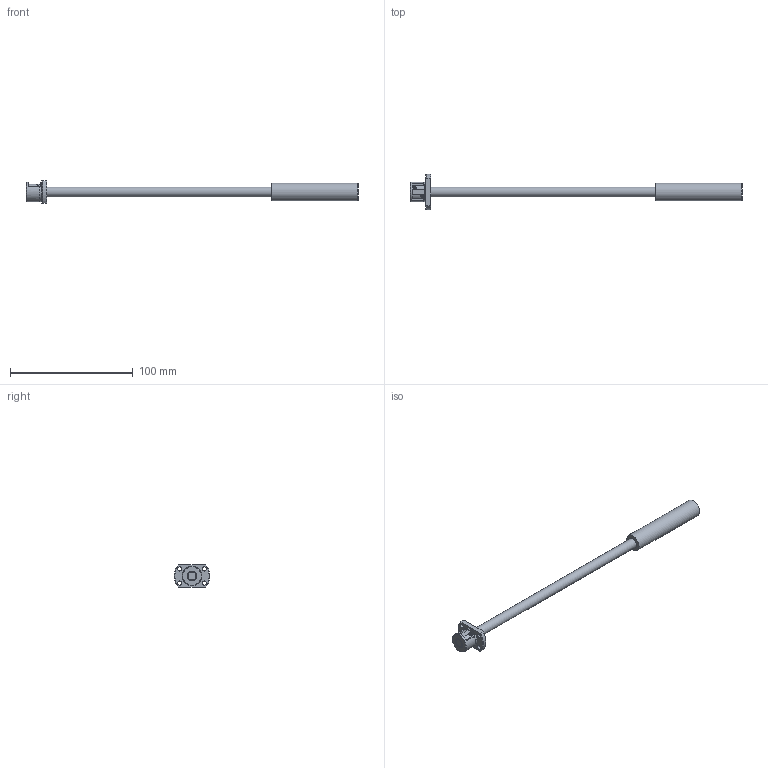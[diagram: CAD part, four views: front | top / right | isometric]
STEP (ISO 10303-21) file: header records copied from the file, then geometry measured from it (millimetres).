
FILE_DESCRIPTION( ( 'STEP AP203' ), '1' );
FILE_NAME( 'e:/temp/worker_105/temp/exporttempdir_6104_517_49EdW/format_0/SRT0801-196R270C7A0X(0None).stp', '2021-10-19T05:29:58', ( 'License CC BY-ND 4.0' ), ( 'CADENAS' ), ' ', 'PARTsolutions', ' ' );
FILE_SCHEMA( ( 'CONFIG_CONTROL_DESIGN' ) );
Length unit declared in the file: millimetre
Products named in the file (3): SRT0801-196R270C7A0X(0None); _SRT0801-196R270ACt7NoneShaft; _SRT0801Nut
Assembly tree (2 placements, depth 2):
  SRT0801-196R270C7A0X(0None)
    _SRT0801-196R270ACt7NoneShaft
    _SRT0801Nut
Bounding box: 270 x 29 x 18 mm (x, y, z)
Volume: 24461.2 mm3; surface area: 10837.8 mm2
Topology: 2 solids, 2 shells, 52 faces, 129 edges, 83 vertices
Faces by surface type: plane 24, cylinder 15, cone 13
Full cylindrical faces by diameter (mm): 2 x2, 3.4 x4, 8 x2, 14.2 x1, 15.5 x1, 16 x1
Entity records: 1580 total; most frequent: CARTESIAN_POINT 337, DIRECTION 246, ORIENTED_EDGE 206, AXIS2_PLACEMENT_3D 106, EDGE_CURVE 103, EDGE_LOOP 80, VERTEX_POINT 73, FACE_OUTER_BOUND 63
